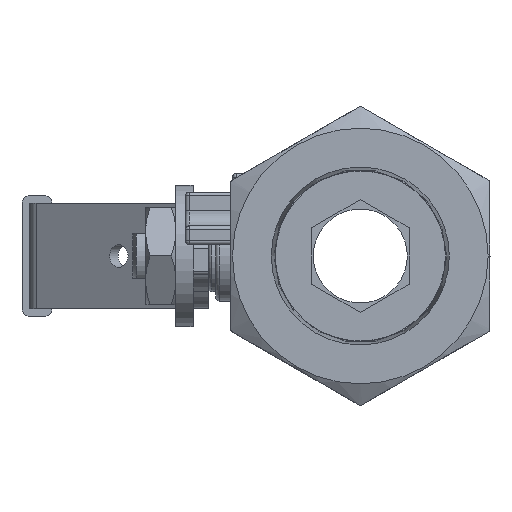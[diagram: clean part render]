
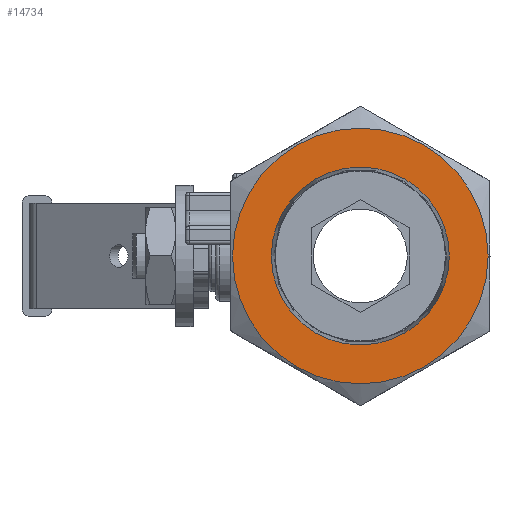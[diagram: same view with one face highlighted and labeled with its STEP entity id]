
A CAD part, left-side view. The second image highlights one B-rep face of the part: STEP entity #14734.
In plain terms, the highlighted planar face has unit normal (-1, 0, 0).
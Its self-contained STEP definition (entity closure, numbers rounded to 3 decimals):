
#13335=CARTESIAN_POINT('',(-29.,17.,0.0));
#13336=VERTEX_POINT('',#13335);
#13337=CARTESIAN_POINT('',(-29.,0.,0.0));
#13338=DIRECTION('',(-1.0,0.0,0.0));
#13339=DIRECTION('',(0.0,1.0,0.0));
#13340=AXIS2_PLACEMENT_3D('',#13337,#13338,#13339);
#13341=CIRCLE('',#13340,17.);
#13342=EDGE_CURVE('',#13336,#13336,#13341,.T.);
#14660=CARTESIAN_POINT('',(-29.0,-11.833,0.));
#14661=VERTEX_POINT('',#14660);
#14662=CARTESIAN_POINT('',(-29.,0.,0.));
#14663=DIRECTION('',(1.0,0.0,0.0));
#14664=DIRECTION('',(0.0,-1.0,0.0));
#14665=AXIS2_PLACEMENT_3D('',#14662,#14663,#14664);
#14666=CIRCLE('',#14665,11.833);
#14667=EDGE_CURVE('',#14661,#14661,#14666,.T.);
#14723=CARTESIAN_POINT('',(-29.,0.,0.));
#14724=DIRECTION('',(1.0,0.0,0.0));
#14725=DIRECTION('',(0.0,0.0,-1.0));
#14726=AXIS2_PLACEMENT_3D('',#14723,#14724,#14725);
#14727=PLANE('',#14726);
#14728=ORIENTED_EDGE('',*,*,#13342,.T.);
#14729=EDGE_LOOP('',(#14728));
#14730=FACE_OUTER_BOUND('',#14729,.T.);
#14731=ORIENTED_EDGE('',*,*,#14667,.T.);
#14732=EDGE_LOOP('',(#14731));
#14733=FACE_BOUND('',#14732,.T.);
#14734=ADVANCED_FACE('',(#14730,#14733),#14727,.F.);
